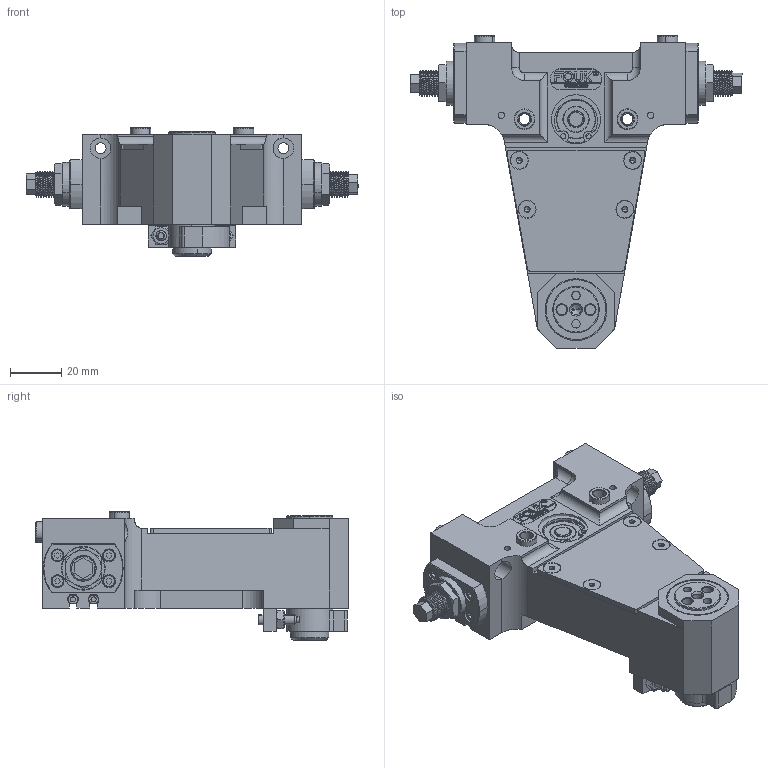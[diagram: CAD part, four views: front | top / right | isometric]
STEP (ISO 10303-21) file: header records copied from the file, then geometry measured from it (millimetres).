
FILE_DESCRIPTION (( 'STEP AP203' ), '1' );
FILE_NAME ('GS16-90¡ã-R.STEP', '2026-05-08T08:04:05', ( 'USER-' ), ( 'Microsoft' ), 'SwSTEP 2.0', 'SolidWorks 2018', '' );
FILE_SCHEMA (( 'CONFIG_CONTROL_DESIGN' ));
Length unit declared in the file: millimetre
Products named in the file (22): GS16-90∼-R; 内六角沉头螺钉[GBT70_3-2008][M3×8×6]_M3×8×6; GS16-06 第一齿轮轴14×1; 内六角平端紧定螺钉[GBT77-2000][M5×5]_M5×5; GS16-01 褲极; GB╱T 276-2013[两面带密封圈（接触式）的深沟球轴承[60000-2RS]626-2RS]; GS16-08 第二齿轮轴14×1; GS16-10 90｡耨ｲﾏﾞﾎｻ; GS16-02 遣喳ん裔啣; hex nuts, style 1-grades ab gb(GB_FASTENER_NUT_SNAB1 M4-C); GS16-05 耜啣菜え; 20x8-R4; GB╱T 290-2017[一面带密封圈的开口型滚针轴承 HK 0000-RS型HK1814-RS]; 内六角圆柱头螺钉[GBT70_1-2008][M2.5×8]_M2.5×8; GB_FASTENER_NUT_SSFNTT M10X1.0-N; ﾏ擎ﾗ8｡ﾁ5｡ﾁ5; GS16-11 茞癹弇傷裔; GB_CONNECTING_PIECE_RING_RRH 19; GB╱T 79-2007[内六角圆柱端紧定螺钉M4×16]; 棠羲換覜ん; GS16-04 葡裔唳; 1010遣喳ん
Assembly tree (41 placements, depth 2):
  GS16-90∼-R
    GS16-01 褲极
    GS16-02 遣喳ん裔啣  x2
    GB╱T 276-2013[两面带密封圈（接触式）的深沟球轴承[60000-2RS]626-2RS]
    GS16-06 第一齿轮轴14×1
    GB_CONNECTING_PIECE_RING_RRH 19
    1010遣喳ん  x2
    GS16-08 第二齿轮轴14×1
    GB╱T 290-2017[一面带密封圈的开口型滚针轴承 HK 0000-RS型HK1814-RS]
    GS16-05 耜啣菜え  x2
    GB_FASTENER_NUT_SSFNTT M10X1.0-N  x2
    GB╱T 79-2007[内六角圆柱端紧定螺钉M4×16]  x2
    hex nuts, style 1-grades ab gb(GB_FASTENER_NUT_SNAB1 M4-C)  x2
    GS16-04 葡裔唳
    GS16-10 90｡耨ｲﾏﾞﾎｻ
    GS16-11 茞癹弇傷裔
    20x8-R4
    棠羲換覜ん  x2
    内六角沉头螺钉[GBT70_3-2008][M3×8×6]_M3×8×6  x4
    内六角圆柱头螺钉[GBT70_1-2008][M2.5×8]_M2.5×8  x8
    ﾏ擎ﾗ8｡ﾁ5｡ﾁ5  x4
    内六角平端紧定螺钉[GBT77-2000][M5×5]_M5×5
Bounding box: 129 x 121.5 x 50 mm (x, y, z)
Volume: 185269.4 mm3; surface area: 65728.8 mm2
Topology: 52 solids, 52 shells, 1764 faces, 4325 edges, 2719 vertices
Faces by surface type: plane 647, cylinder 589, cone 240, bspline 232, torus 56
Entity records: 55201 total; most frequent: CARTESIAN_POINT 23253, ORIENTED_EDGE 6278, DIRECTION 5523, EDGE_CURVE 3139, VERTEX_POINT 2039, AXIS2_PLACEMENT_3D 1966, VECTOR 1591, LINE 1591
